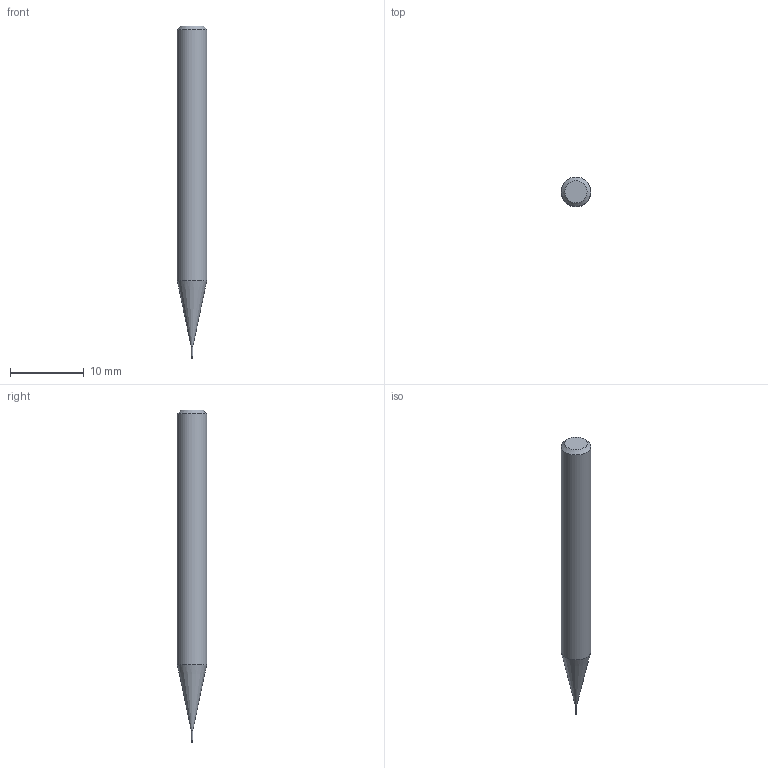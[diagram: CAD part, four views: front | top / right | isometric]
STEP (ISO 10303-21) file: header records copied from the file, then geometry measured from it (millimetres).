
FILE_DESCRIPTION((''),'2;1');
FILE_NAME('C:\Users\nsx150\AppData\Local\Temp\Mastercam 2021\3SYKECWX22\TEMP.step','2021-04-22T09:36:04',(''),(''),'STEP Write','Mastercam 2021 ... CNC Software, Inc.','');
FILE_SCHEMA(('AUTOMOTIVE_DESIGN'));
Length unit declared in the file: millimetre
Products named in the file (1): None
Bounding box: 4 x 4 x 45 mm (x, y, z)
Volume: 471.7 mm3; surface area: 503.5 mm2
Topology: 2 solids, 2 shells, 10 faces, 14 edges, 8 vertices
Faces by surface type: plane 4, cylinder 3, cone 2, torus 1
Full cylindrical faces by diameter (mm): 0.18 x1, 0.2 x1, 4 x1
Entity records: 232 total; most frequent: DIRECTION 40, CARTESIAN_POINT 28, AXIS2_PLACEMENT_3D 20, ORIENTED_EDGE 16, EDGE_LOOP 16, STYLED_ITEM 13, ADVANCED_FACE 10, FACE_BOUND 10
